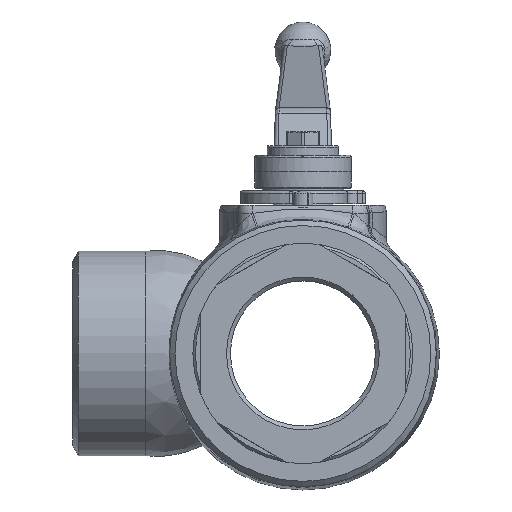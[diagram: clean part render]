
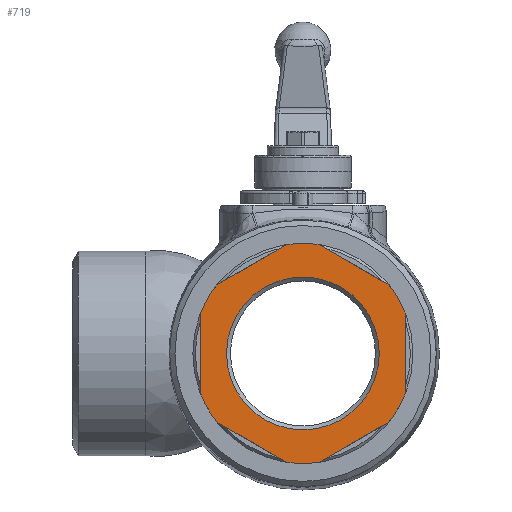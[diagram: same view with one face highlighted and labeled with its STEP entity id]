
A CAD part, front view. The second image highlights one B-rep face of the part: STEP entity #719.
In plain terms, the highlighted planar face has unit normal (0, -1, 0) as drawn and (0, 1, 0) by its records, which use the part's own axes.
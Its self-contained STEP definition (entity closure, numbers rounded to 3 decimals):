
#719 = ADVANCED_FACE( '', ( #1662, #1663 ), #1664, .T. );
#1662 = FACE_BOUND( '', #3110, .T. );
#1663 = FACE_OUTER_BOUND( '', #3111, .T. );
#1664 = PLANE( '', #3112 );
#3110 = EDGE_LOOP( '', ( #6282 ) );
#3111 = EDGE_LOOP( '', ( #6283, #6284, #6285, #6286, #6287, #6288, #6289, #6290, #6291, #6292, #6293, #6294 ) );
#3112 = AXIS2_PLACEMENT_3D( '', #6295, #6296, #6297 );
#6282 = ORIENTED_EDGE( '', *, *, #9397, .T. );
#6283 = ORIENTED_EDGE( '', *, *, #9319, .T. );
#6284 = ORIENTED_EDGE( '', *, *, #9252, .T. );
#6285 = ORIENTED_EDGE( '', *, *, #9171, .T. );
#6286 = ORIENTED_EDGE( '', *, *, #9398, .T. );
#6287 = ORIENTED_EDGE( '', *, *, #9066, .T. );
#6288 = ORIENTED_EDGE( '', *, *, #9399, .T. );
#6289 = ORIENTED_EDGE( '', *, *, #9324, .T. );
#6290 = ORIENTED_EDGE( '', *, *, #9400, .T. );
#6291 = ORIENTED_EDGE( '', *, *, #9401, .T. );
#6292 = ORIENTED_EDGE( '', *, *, #9402, .T. );
#6293 = ORIENTED_EDGE( '', *, *, #9239, .T. );
#6294 = ORIENTED_EDGE( '', *, *, #9403, .T. );
#6295 = CARTESIAN_POINT( '', ( 0., 20., 0. ) );
#6296 = DIRECTION( '', ( 0., 1., 0. ) );
#6297 = DIRECTION( '', ( 0., 0., 1. ) );
#9066 = EDGE_CURVE( '', #10398, #10395, #10399, .T. );
#9171 = EDGE_CURVE( '', #10579, #10583, #10585, .T. );
#9239 = EDGE_CURVE( '', #10706, #10703, #10707, .T. );
#9252 = EDGE_CURVE( '', #10728, #10579, #10729, .T. );
#9319 = EDGE_CURVE( '', #10849, #10728, #10850, .T. );
#9324 = EDGE_CURVE( '', #10858, #10855, #10859, .T. );
#9397 = EDGE_CURVE( '', #10976, #10976, #10977, .T. );
#9398 = EDGE_CURVE( '', #10583, #10398, #10978, .T. );
#9399 = EDGE_CURVE( '', #10395, #10858, #10979, .T. );
#9400 = EDGE_CURVE( '', #10855, #10980, #10981, .T. );
#9401 = EDGE_CURVE( '', #10980, #10982, #10983, .T. );
#9402 = EDGE_CURVE( '', #10982, #10706, #10984, .T. );
#9403 = EDGE_CURVE( '', #10703, #10849, #10985, .T. );
#10395 = VERTEX_POINT( '', #12324 );
#10398 = VERTEX_POINT( '', #12328 );
#10399 = CIRCLE( '', #12329, 43. );
#10579 = VERTEX_POINT( '', #12997 );
#10583 = VERTEX_POINT( '', #13002 );
#10585 = CIRCLE( '', #13005, 43. );
#10703 = VERTEX_POINT( '', #13220 );
#10706 = VERTEX_POINT( '', #13224 );
#10707 = CIRCLE( '', #13225, 43. );
#10728 = VERTEX_POINT( '', #13247 );
#10729 = LINE( '', #13248, #13249 );
#10849 = VERTEX_POINT( '', #13467 );
#10850 = CIRCLE( '', #13468, 43. );
#10855 = VERTEX_POINT( '', #13474 );
#10858 = VERTEX_POINT( '', #13478 );
#10859 = CIRCLE( '', #13479, 43. );
#10976 = VERTEX_POINT( '', #13704 );
#10977 = CIRCLE( '', #13705, 29.85 );
#10978 = LINE( '', #13706, #13707 );
#10979 = LINE( '', #13708, #13709 );
#10980 = VERTEX_POINT( '', #13710 );
#10981 = LINE( '', #13711, #13712 );
#10982 = VERTEX_POINT( '', #13713 );
#10983 = CIRCLE( '', #13714, 43. );
#10984 = LINE( '', #13715, #13716 );
#10985 = LINE( '', #13717, #13718 );
#12324 = CARTESIAN_POINT( '', ( 33.666, 20., -26.751 ) );
#12328 = CARTESIAN_POINT( '', ( 40., 20., -15.78 ) );
#12329 = AXIS2_PLACEMENT_3D( '', #17421, #17422, #17423 );
#12997 = CARTESIAN_POINT( '', ( 33.666, 20., 26.751 ) );
#13002 = CARTESIAN_POINT( '', ( 40., 20., 15.78 ) );
#13005 = AXIS2_PLACEMENT_3D( '', #17563, #17564, #17565 );
#13220 = CARTESIAN_POINT( '', ( -33.666, 20., 26.751 ) );
#13224 = CARTESIAN_POINT( '', ( -40., 20., 15.78 ) );
#13225 = AXIS2_PLACEMENT_3D( '', #17681, #17682, #17683 );
#13247 = CARTESIAN_POINT( '', ( 6.334, 20., 42.531 ) );
#13248 = CARTESIAN_POINT( '', ( -27.323, 20., 61.963 ) );
#13249 = VECTOR( '', #17712, 1000. );
#13467 = CARTESIAN_POINT( '', ( -6.334, 20., 42.531 ) );
#13468 = AXIS2_PLACEMENT_3D( '', #17801, #17802, #17803 );
#13474 = CARTESIAN_POINT( '', ( -6.334, 20., -42.531 ) );
#13478 = CARTESIAN_POINT( '', ( 6.334, 20., -42.531 ) );
#13479 = AXIS2_PLACEMENT_3D( '', #17809, #17810, #17811 );
#13704 = CARTESIAN_POINT( '', ( 0., 20., -29.85 ) );
#13705 = AXIS2_PLACEMENT_3D( '', #17914, #17915, #17916 );
#13706 = CARTESIAN_POINT( '', ( 40., 20., 54.644 ) );
#13707 = VECTOR( '', #17917, 1000. );
#13708 = CARTESIAN_POINT( '', ( 67.323, 20., -7.319 ) );
#13709 = VECTOR( '', #17918, 1000. );
#13710 = CARTESIAN_POINT( '', ( -33.666, 20., -26.751 ) );
#13711 = CARTESIAN_POINT( '', ( 27.323, 20., -61.963 ) );
#13712 = VECTOR( '', #17919, 1000. );
#13713 = CARTESIAN_POINT( '', ( -40., 20., -15.78 ) );
#13714 = AXIS2_PLACEMENT_3D( '', #17920, #17921, #17922 );
#13715 = CARTESIAN_POINT( '', ( -40., 20., -54.644 ) );
#13716 = VECTOR( '', #17923, 1000. );
#13717 = CARTESIAN_POINT( '', ( -67.323, 20., 7.319 ) );
#13718 = VECTOR( '', #17924, 1000. );
#17421 = CARTESIAN_POINT( '', ( 0., 20., 0. ) );
#17422 = DIRECTION( '', ( 0., 1., 0. ) );
#17423 = DIRECTION( '', ( 1., 0., 0. ) );
#17563 = CARTESIAN_POINT( '', ( 0., 20., 0. ) );
#17564 = DIRECTION( '', ( 0., 1., 0. ) );
#17565 = DIRECTION( '', ( 1., 0., 0. ) );
#17681 = CARTESIAN_POINT( '', ( 0., 20., 0. ) );
#17682 = DIRECTION( '', ( 0., 1., 0. ) );
#17683 = DIRECTION( '', ( 1., 0., 0. ) );
#17712 = DIRECTION( '', ( 0.866, 0., -0.5 ) );
#17801 = CARTESIAN_POINT( '', ( 0., 20., 0. ) );
#17802 = DIRECTION( '', ( 0., 1., 0. ) );
#17803 = DIRECTION( '', ( 1., 0., 0. ) );
#17809 = CARTESIAN_POINT( '', ( 0., 20., 0. ) );
#17810 = DIRECTION( '', ( 0., 1., 0. ) );
#17811 = DIRECTION( '', ( 1., 0., 0. ) );
#17914 = CARTESIAN_POINT( '', ( 0., 20., 0. ) );
#17915 = DIRECTION( '', ( 0., -1., 0. ) );
#17916 = DIRECTION( '', ( 0., 0., -1. ) );
#17917 = DIRECTION( '', ( 0., 0., -1. ) );
#17918 = DIRECTION( '', ( -0.866, 0., -0.5 ) );
#17919 = DIRECTION( '', ( -0.866, 0., 0.5 ) );
#17920 = CARTESIAN_POINT( '', ( 0., 20., 0. ) );
#17921 = DIRECTION( '', ( 0., 1., 0. ) );
#17922 = DIRECTION( '', ( 1., 0., 0. ) );
#17923 = DIRECTION( '', ( 0., 0., 1. ) );
#17924 = DIRECTION( '', ( 0.866, 0., 0.5 ) );
